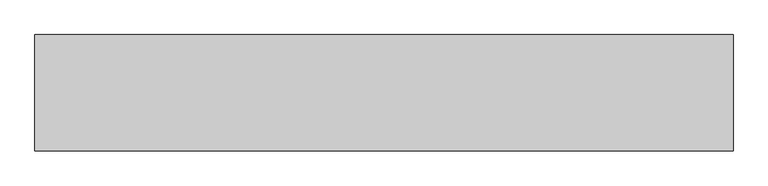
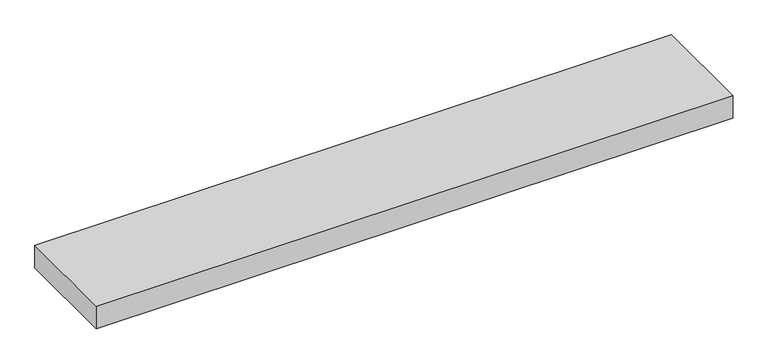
"""IFC4 building model written with IfcOpenShell, lengths in millimetres: light fixture geometry, GENILED_Светильник светодиодный_ЛПО Advanced : ЛПО Advanced 1200х180х45 40Вт IP54 40Вт Опал."""

from ifc_helpers import new_model, si_unit, origin, place, context, project, spatial, faceted_brep, source, transform, mapped, element, save


def light_fixture_eaf00b14(model_context):
    return source(origin(), model_context, "Body", "Brep", [
        faceted_brep([(600.0, 100.0, 45.0), (-600.0, 100.0, 45.0), (-600.0, -100.0, 45.0), (600.0, -100.0, 45.0), (590.0, 90.0, 5.0), (590.0, -90.0, 5.0), (-590.0, -90.0, 5.0), (-590.0, 90.0, 5.0), (600.0, 100.0, 0.0), (600.0, -100.0, 0.0), (-600.0, -100.0, 0.0), (-600.0, 100.0, 0.0), (590.0, 90.0, 0.0), (-590.0, 90.0, 0.0), (-590.0, -90.0, 0.0), (590.0, -90.0, 0.0)], [[[0, 1, 2, 3]], [[4, 5, 6, 7]], [[8, 9, 10, 11], [12, 13, 14, 15]], [[1, 0, 8, 11]], [[2, 1, 11, 10]], [[3, 2, 10, 9]], [[0, 3, 9, 8]], [[12, 15, 5, 4]], [[15, 14, 6, 5]], [[14, 13, 7, 6]], [[13, 12, 4, 7]]]),
    ])


if __name__ == "__main__":
    model = new_model("IFC4")
    model_context = context("Model", 3, world=origin())
    ifc_project = project(units=[si_unit("LENGTHUNIT", "METRE", prefix="MILLI")], contexts=[model_context])
    site = spatial("IfcSite", under=ifc_project)
    building = spatial("IfcBuilding", under=site)
    placement = place(None, origin())
    light_fixture_shape = light_fixture_eaf00b14(model_context)
    element("IfcLightFixture", 1, ObjectType="GENILED_Светильник светодиодный_ЛПО Advanced : ЛПО Advanced 1200х180х45 40Вт IP54 40Вт Опал", at=placement, inside=building, context=model_context, shape_type="MappedRepresentation", body=[
        mapped(light_fixture_shape, transform((0.0, 0.0, 0.0), x_axis=(1.0, 0.0, 0.0), y_axis=(0.0, 1.0, 0.0), z_axis=(0.0, 0.0, 1.0))),
    ])
    save(model, "model.ifc")
